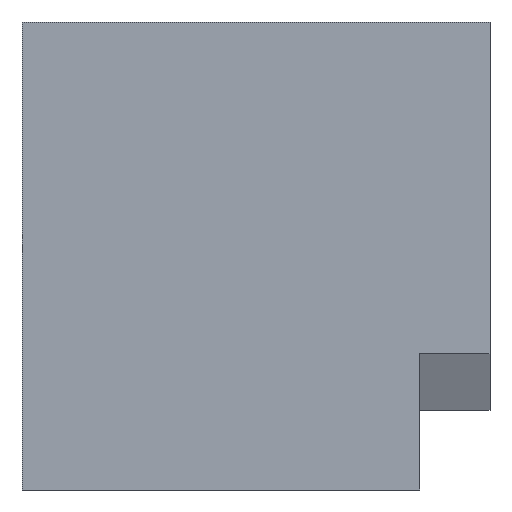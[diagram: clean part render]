
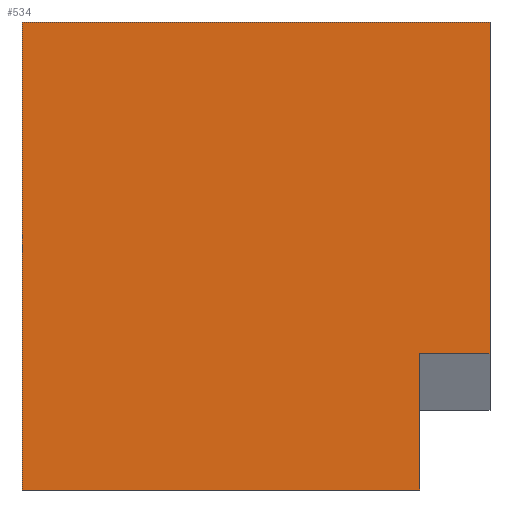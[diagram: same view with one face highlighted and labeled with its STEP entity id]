
A CAD part, front view. The second image highlights one B-rep face of the part: STEP entity #534.
In plain terms, the highlighted planar face has unit normal (0, -1, 0).
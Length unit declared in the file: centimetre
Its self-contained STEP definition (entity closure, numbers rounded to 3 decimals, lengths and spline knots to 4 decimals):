
#56 = LINE ( 'NONE', #313, #814 ) ;
#94 = LINE ( 'NONE', #617, #305 ) ;
#162 = CARTESIAN_POINT ( 'NONE',  ( 0., 0., 1000. ) ) ;
#183 = DIRECTION ( 'NONE',  ( 0., 0., -1. ) ) ;
#244 = EDGE_CURVE ( 'NONE', #890, #1039, #351, .T. ) ;
#254 = EDGE_CURVE ( 'NONE', #963, #1039, #275, .T. ) ;
#275 = LINE ( 'NONE', #522, #549 ) ;
#282 = CARTESIAN_POINT ( 'NONE',  ( 0., 0., 1000. ) ) ;
#305 = VECTOR ( 'NONE', #989, 100. ) ;
#313 = CARTESIAN_POINT ( 'NONE',  ( 1000., 0., 1000. ) ) ;
#316 = ORIENTED_EDGE ( 'NONE', *, *, #787, .T. ) ;
#351 = LINE ( 'NONE', #361, #894 ) ;
#361 = CARTESIAN_POINT ( 'NONE',  ( 0., 0., 0. ) ) ;
#388 = EDGE_CURVE ( 'NONE', #461, #424, #56, .T. ) ;
#417 = CARTESIAN_POINT ( 'NONE',  ( 1000., 0., 1000. ) ) ;
#421 = DIRECTION ( 'NONE',  ( 0., 1., 0. ) ) ;
#424 = VERTEX_POINT ( 'NONE', #867 ) ;
#454 = EDGE_LOOP ( 'NONE', ( #1088, #316, #786, #950, #1071, #781 ) ) ;
#461 = VERTEX_POINT ( 'NONE', #417 ) ;
#522 = CARTESIAN_POINT ( 'NONE',  ( 849.9904, 0., 291.1869 ) ) ;
#529 = CARTESIAN_POINT ( 'NONE',  ( 849.9904, 0., 291.1869 ) ) ;
#534 = ADVANCED_FACE ( 'NONE', ( #596 ), #766, .F. ) ;
#549 = VECTOR ( 'NONE', #183, 100. ) ;
#552 = EDGE_CURVE ( 'NONE', #718, #461, #1049, .T. ) ;
#596 = FACE_OUTER_BOUND ( 'NONE', #454, .T. ) ;
#617 = CARTESIAN_POINT ( 'NONE',  ( 0., 0., 1000. ) ) ;
#638 = EDGE_CURVE ( 'NONE', #718, #890, #94, .T. ) ;
#645 = DIRECTION ( 'NONE',  ( 0., 0., -1. ) ) ;
#676 = DIRECTION ( 'NONE',  ( 1., 0., 0. ) ) ;
#700 = VECTOR ( 'NONE', #676, 100. ) ;
#718 = VERTEX_POINT ( 'NONE', #282 ) ;
#719 = VECTOR ( 'NONE', #802, 100. ) ;
#727 = CARTESIAN_POINT ( 'NONE',  ( 849.9904, 0., 0. ) ) ;
#766 = PLANE ( 'NONE',  #858 ) ;
#778 = DIRECTION ( 'NONE',  ( 0., 0., 1. ) ) ;
#781 = ORIENTED_EDGE ( 'NONE', *, *, #244, .T. ) ;
#786 = ORIENTED_EDGE ( 'NONE', *, *, #388, .F. ) ;
#787 = EDGE_CURVE ( 'NONE', #963, #424, #1058, .T. ) ;
#802 = DIRECTION ( 'NONE',  ( 1., 0., 0. ) ) ;
#814 = VECTOR ( 'NONE', #645, 100. ) ;
#827 = CARTESIAN_POINT ( 'NONE',  ( 0., 0., 0. ) ) ;
#832 = CARTESIAN_POINT ( 'NONE',  ( 849.9904, 0., 291.1869 ) ) ;
#858 = AXIS2_PLACEMENT_3D ( 'NONE', #1146, #421, #778 ) ;
#867 = CARTESIAN_POINT ( 'NONE',  ( 1000., 0., 291.1869 ) ) ;
#890 = VERTEX_POINT ( 'NONE', #827 ) ;
#894 = VECTOR ( 'NONE', #1062, 100. ) ;
#950 = ORIENTED_EDGE ( 'NONE', *, *, #552, .F. ) ;
#963 = VERTEX_POINT ( 'NONE', #832 ) ;
#989 = DIRECTION ( 'NONE',  ( 0., 0., -1. ) ) ;
#1039 = VERTEX_POINT ( 'NONE', #727 ) ;
#1049 = LINE ( 'NONE', #162, #700 ) ;
#1058 = LINE ( 'NONE', #529, #719 ) ;
#1062 = DIRECTION ( 'NONE',  ( 1., 0., 0. ) ) ;
#1071 = ORIENTED_EDGE ( 'NONE', *, *, #638, .T. ) ;
#1088 = ORIENTED_EDGE ( 'NONE', *, *, #254, .F. ) ;
#1146 = CARTESIAN_POINT ( 'NONE',  ( 0., 0., 1000. ) ) ;
